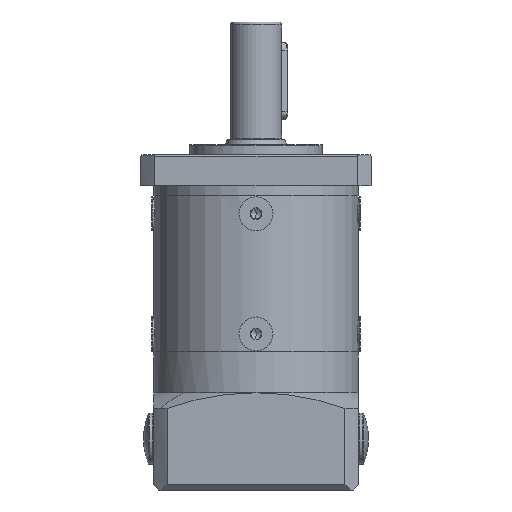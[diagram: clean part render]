
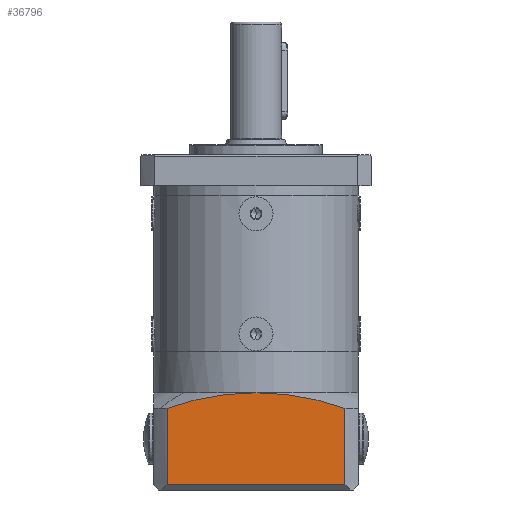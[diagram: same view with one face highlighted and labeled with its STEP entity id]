
A CAD part, front view. The second image highlights one B-rep face of the part: STEP entity #36796.
In plain terms, the highlighted planar face has unit normal (0, -1, 0).
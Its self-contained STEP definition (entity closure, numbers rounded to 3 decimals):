
#600 = CARTESIAN_POINT ( 'NONE',  ( 12.575, -6.138, -3.29 ) ) ;
#2221 = VECTOR ( 'NONE', #43774, 1000. ) ;
#2261 = CARTESIAN_POINT ( 'NONE',  ( 12.575, -6.138, -18.25 ) ) ;
#2763 = DIRECTION ( 'NONE',  ( 0., 1., 0. ) ) ;
#2778 = LINE ( 'NONE', #10284, #2221 ) ;
#2927 = DIRECTION ( 'NONE',  ( 0., 0., -1. ) ) ;
#6494 = CARTESIAN_POINT ( 'NONE',  ( 15.19, -6.138, -19.25 ) ) ;
#7070 = CARTESIAN_POINT ( 'NONE',  ( -4.81, -6.138, -0.25 ) ) ;
#8296 = VERTEX_POINT ( 'NONE', #7070 ) ;
#8738 = EDGE_CURVE ( 'NONE', #20870, #47671, #2778, .T. ) ;
#9660 = DIRECTION ( 'NONE',  ( 0., 0., -1. ) ) ;
#9905 = PLANE ( 'NONE',  #44472 ) ;
#10284 = CARTESIAN_POINT ( 'NONE',  ( 12.575, -6.138, -94.953 ) ) ;
#11976 = ORIENTED_EDGE ( 'NONE', *, *, #46394, .T. ) ;
#15124 = CARTESIAN_POINT ( 'NONE',  ( -22.195, -6.138, -18.25 ) ) ;
#17244 = DIRECTION ( 'NONE',  ( 0., 0., -1. ) ) ;
#19382 = CIRCLE ( 'NONE', #34254, 51.235 ) ;
#19756 = DIRECTION ( 'NONE',  ( 0., 0., 1. ) ) ;
#20870 = VERTEX_POINT ( 'NONE', #600 ) ;
#23218 = EDGE_LOOP ( 'NONE', ( #39614, #11976, #44452, #35302, #44059 ) ) ;
#23518 = VECTOR ( 'NONE', #40158, 1000. ) ;
#23843 = DIRECTION ( 'NONE',  ( 0., -1., 0. ) ) ;
#25819 = EDGE_CURVE ( 'NONE', #38032, #35947, #47161, .T. ) ;
#32362 = CARTESIAN_POINT ( 'NONE',  ( -22.195, -6.138, -3.29 ) ) ;
#32640 = VECTOR ( 'NONE', #19756, 1000. ) ;
#34254 = AXIS2_PLACEMENT_3D ( 'NONE', #38768, #23843, #9660 ) ;
#35302 = ORIENTED_EDGE ( 'NONE', *, *, #25819, .F. ) ;
#35637 = CIRCLE ( 'NONE', #37800, 51.235 ) ;
#35947 = VERTEX_POINT ( 'NONE', #32362 ) ;
#35990 = DIRECTION ( 'NONE',  ( 0., -1., 0. ) ) ;
#36796 = ADVANCED_FACE ( 'NONE', ( #38118 ), #9905, .F. ) ;
#37800 = AXIS2_PLACEMENT_3D ( 'NONE', #43603, #35990, #17244 ) ;
#38032 = VERTEX_POINT ( 'NONE', #15124 ) ;
#38118 = FACE_OUTER_BOUND ( 'NONE', #23218, .T. ) ;
#38768 = CARTESIAN_POINT ( 'NONE',  ( -4.81, -6.138, -51.485 ) ) ;
#39614 = ORIENTED_EDGE ( 'NONE', *, *, #8738, .F. ) ;
#40158 = DIRECTION ( 'NONE',  ( 1., 0., 0. ) ) ;
#40580 = EDGE_CURVE ( 'NONE', #8296, #35947, #35637, .T. ) ;
#40916 = LINE ( 'NONE', #43742, #23518 ) ;
#41762 = CARTESIAN_POINT ( 'NONE',  ( -22.195, -6.138, -94.953 ) ) ;
#43229 = EDGE_CURVE ( 'NONE', #38032, #47671, #40916, .T. ) ;
#43603 = CARTESIAN_POINT ( 'NONE',  ( -4.81, -6.138, -51.485 ) ) ;
#43742 = CARTESIAN_POINT ( 'NONE',  ( 15.19, -6.138, -18.25 ) ) ;
#43774 = DIRECTION ( 'NONE',  ( 0., 0., -1. ) ) ;
#44059 = ORIENTED_EDGE ( 'NONE', *, *, #43229, .T. ) ;
#44452 = ORIENTED_EDGE ( 'NONE', *, *, #40580, .T. ) ;
#44472 = AXIS2_PLACEMENT_3D ( 'NONE', #6494, #2763, #2927 ) ;
#46394 = EDGE_CURVE ( 'NONE', #20870, #8296, #19382, .T. ) ;
#47161 = LINE ( 'NONE', #41762, #32640 ) ;
#47671 = VERTEX_POINT ( 'NONE', #2261 ) ;
